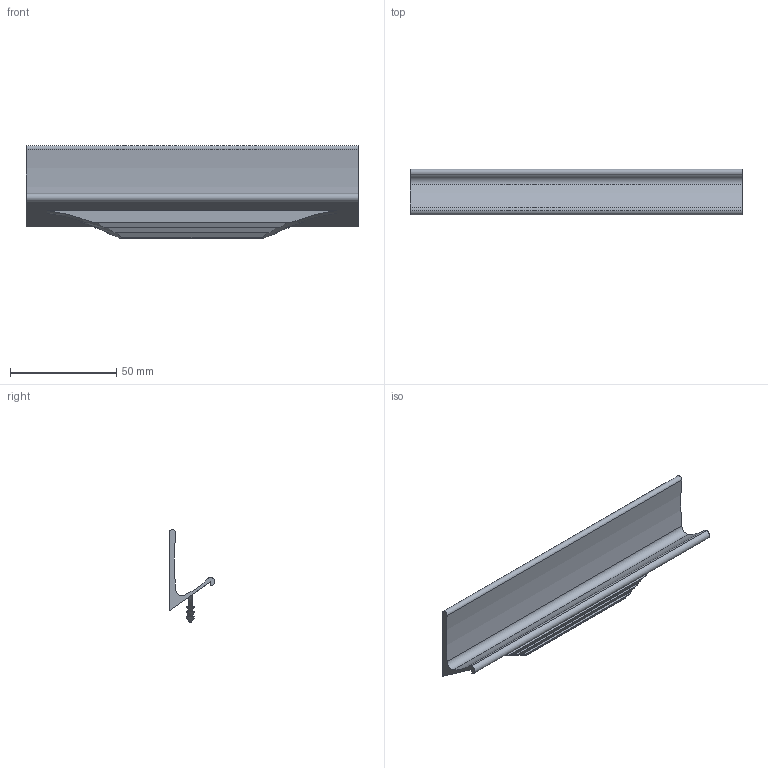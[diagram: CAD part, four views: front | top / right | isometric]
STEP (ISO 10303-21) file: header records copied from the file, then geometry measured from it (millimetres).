
FILE_DESCRIPTION((''),'2;1');
FILE_NAME('OPO_42.275.39.step','2015-02-23T17:43:14',(''),(''),'Mechanical Desktop 2010','Mechanical Desktop 2010',', , ');
FILE_SCHEMA(('CONFIG_CONTROL_DESIGN'));
Length unit declared in the file: millimetre
Products named in the file (2): Product; *S256
Assembly tree (1 placements, depth 2):
  Product
    *S256
Bounding box: 156 x 21.5 x 43.5 mm (x, y, z)
Volume: 25549 mm3; surface area: 22202 mm2
Topology: 1 solids, 1 shells, 28 faces, 208 edges, 316 vertices
Faces by surface type: plane 19, cylinder 8, bspline 1
Entity records: 2041 total; most frequent: CARTESIAN_POINT 630, DIRECTION 345, ORIENTED_EDGE 150, TRIMMED_CURVE 128, AXIS2_PLACEMENT_3D 115, VECTOR 115, LINE 115, EDGE_CURVE 75
